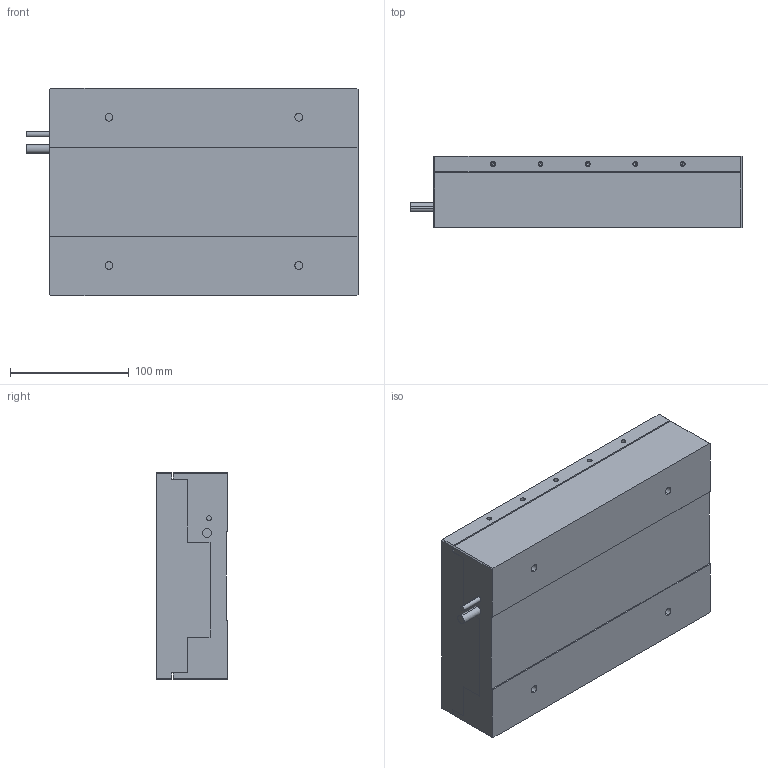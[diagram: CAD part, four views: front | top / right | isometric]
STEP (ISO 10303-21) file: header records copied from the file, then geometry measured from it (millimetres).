
FILE_DESCRIPTION (( 'STEP AP203' ), '1' );
FILE_NAME ('NPS-L-CB4-10x.STEP', '2019-09-11T05:17:30', ( '' ), ( '' ), 'SwSTEP 2.0', 'SolidWorks 2015', '' );
FILE_SCHEMA (( 'CONFIG_CONTROL_DESIGN' ));
Length unit declared in the file: millimetre
Products named in the file (3): NPS-L-CB4-10x_固定部; NPS-L-CB4-10x_移動部; NPS-L-CB4-10x
Assembly tree (2 placements, depth 2):
  NPS-L-CB4-10x
    NPS-L-CB4-10x_固定部
    NPS-L-CB4-10x_移動部
Bounding box: 280 x 60 x 175 mm (x, y, z)
Volume: 2692316 mm3; surface area: 275913.1 mm2
Topology: 2 solids, 2 shells, 216 faces, 492 edges, 308 vertices
Faces by surface type: cylinder 112, plane 80, cone 24
Entity records: 6281 total; most frequent: DIRECTION 1134, CARTESIAN_POINT 997, ORIENTED_EDGE 936, EDGE_CURVE 468, AXIS2_PLACEMENT_3D 445, VERTEX_POINT 308, EDGE_LOOP 276, VECTOR 244
